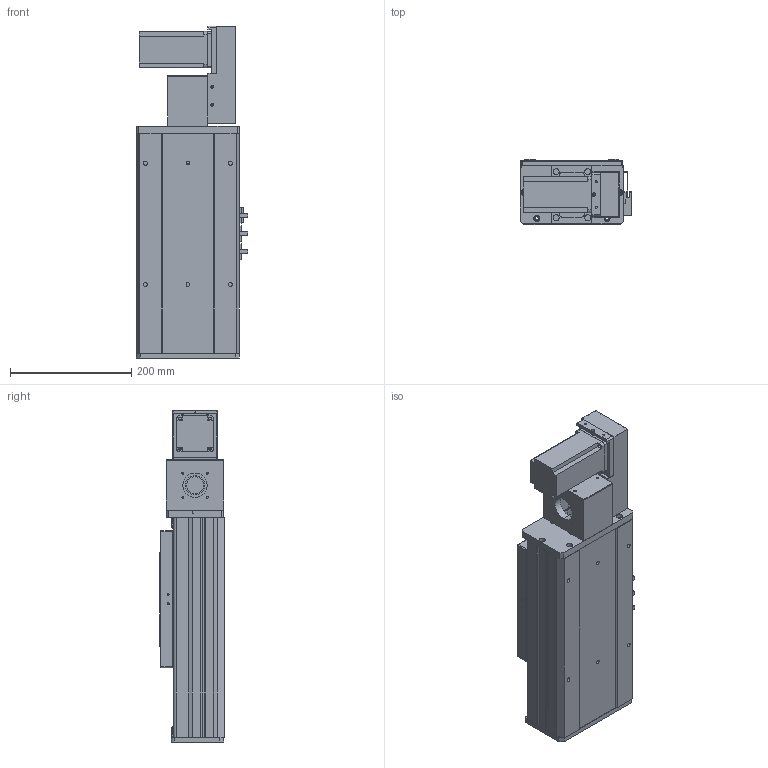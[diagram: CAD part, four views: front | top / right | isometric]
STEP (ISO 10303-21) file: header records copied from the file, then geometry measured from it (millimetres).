
FILE_DESCRIPTION (( 'STEP AP203' ), '1' );
FILE_NAME ('Y170CB-D105-S50-BR-P400W.STEP', '2020-02-19T08:29:09', ( '微软用户' ), ( '微软中国' ), 'SwSTEP 2.0', 'SolidWorks 2017', '' );
FILE_SCHEMA (( 'CONFIG_CONTROL_DESIGN' ));
Length unit declared in the file: millimetre
Products named in the file (17): B-源倛裔啣; 70C-雄赽釱-奻-; 17B-耜蚾蟀諉啣----; 70C--詩湍揤踡え-; 70CB--耜裔; 70CB-詩湍--; 0C--雄赽釱俋欶-170; Y100-135俋离換覜ん--; 70B喘謫眊----; san松下电机400不带刹车----; 0B-萇儂楊擘啣; 70CB-耜裔啣-; --70CB --喘謫眊楊擘啣-; 70CB-掛极-; Y170CB-D105-S50-BR-P400W; Y70俋欶BR----; Y170CB-陔俋离換覜結え---
Assembly tree (20 placements, depth 2):
  Y170CB-D105-S50-BR-P400W
    70B喘謫眊----
    B-源倛裔啣
    17B-耜蚾蟀諉啣----
    0B-萇儂楊擘啣
    san松下电机400不带刹车----
    Y70俋欶BR----
    70CB-掛极-
    --70CB --喘謫眊楊擘啣-
    70CB-耜裔啣-  x2
    70C--詩湍揤踡え-  x2
    70CB--耜裔
    70C-雄赽釱-奻-
    0C--雄赽釱俋欶-170
    70CB-詩湍--
    Y100-135俋离換覜ん--  x3
    Y170CB-陔俋离換覜結え---
Bounding box: 183.5 x 107 x 547 mm (x, y, z)
Volume: 2791180 mm3; surface area: 960905.8 mm2
Topology: 20 solids, 20 shells, 953 faces, 2537 edges, 1682 vertices
Faces by surface type: cylinder 467, plane 462, cone 24
Entity records: 29997 total; most frequent: CARTESIAN_POINT 5479, DIRECTION 4876, ORIENTED_EDGE 4556, EDGE_CURVE 2278, AXIS2_PLACEMENT_3D 1765, VERTEX_POINT 1512, VECTOR 1346, LINE 1346
